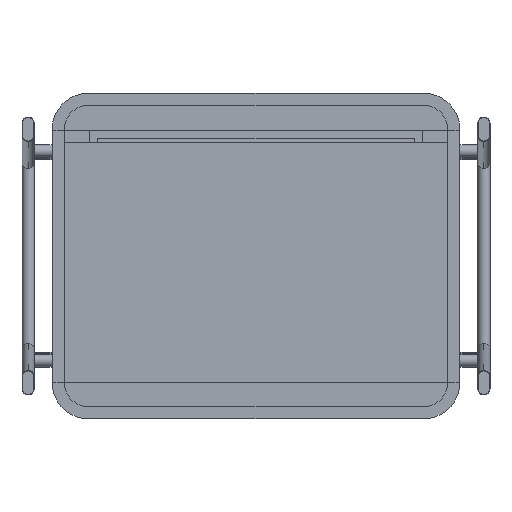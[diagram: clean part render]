
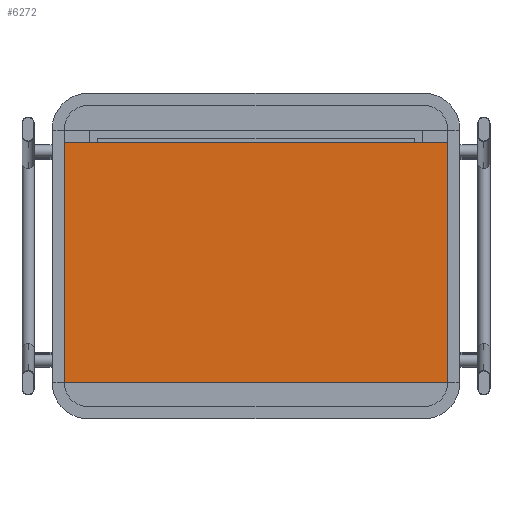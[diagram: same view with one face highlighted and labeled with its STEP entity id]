
A CAD part, front view. The second image highlights one B-rep face of the part: STEP entity #6272.
In plain terms, the highlighted planar face has unit normal (0, -1, 0).
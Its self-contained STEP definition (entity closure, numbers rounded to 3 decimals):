
#583 = EDGE_CURVE ( 'NONE', #24552, #14318, #2977, .T. ) ;
#1186 = LINE ( 'NONE', #22503, #7869 ) ;
#1730 = CARTESIAN_POINT ( 'NONE',  ( 236., 0., 139.5 ) ) ;
#2977 = LINE ( 'NONE', #16124, #13054 ) ;
#3325 = EDGE_CURVE ( 'NONE', #13603, #14318, #23348, .T. ) ;
#4037 = VECTOR ( 'NONE', #10565, 1000. ) ;
#4414 = CARTESIAN_POINT ( 'NONE',  ( -236., 0., -155.5 ) ) ;
#4488 = PLANE ( 'NONE',  #16317 ) ;
#5531 = ORIENTED_EDGE ( 'NONE', *, *, #3325, .F. ) ;
#5613 = CARTESIAN_POINT ( 'NONE',  ( -236., 0., 139.5 ) ) ;
#6272 = ADVANCED_FACE ( 'NONE', ( #8291 ), #4488, .F. ) ;
#6773 = EDGE_CURVE ( 'NONE', #7067, #13603, #1186, .T. ) ;
#7067 = VERTEX_POINT ( 'NONE', #14362 ) ;
#7869 = VECTOR ( 'NONE', #11035, 1000. ) ;
#8291 = FACE_OUTER_BOUND ( 'NONE', #22533, .T. ) ;
#10565 = DIRECTION ( 'NONE',  ( 0., 0., -1. ) ) ;
#10709 = DIRECTION ( 'NONE',  ( -1., 0., 0. ) ) ;
#11035 = DIRECTION ( 'NONE',  ( -1., 0., 0. ) ) ;
#12199 = DIRECTION ( 'NONE',  ( 0., 1., 0. ) ) ;
#12330 = CARTESIAN_POINT ( 'NONE',  ( -206., 0., 155.5 ) ) ;
#12455 = LINE ( 'NONE', #20141, #4037 ) ;
#13054 = VECTOR ( 'NONE', #10709, 1000. ) ;
#13603 = VERTEX_POINT ( 'NONE', #4414 ) ;
#13639 = DIRECTION ( 'NONE',  ( 0., 0., 1. ) ) ;
#14318 = VERTEX_POINT ( 'NONE', #5613 ) ;
#14362 = CARTESIAN_POINT ( 'NONE',  ( 236., 0., -155.5 ) ) ;
#16112 = DIRECTION ( 'NONE',  ( 0., 0., 1. ) ) ;
#16124 = CARTESIAN_POINT ( 'NONE',  ( -206., 0., 139.5 ) ) ;
#16317 = AXIS2_PLACEMENT_3D ( 'NONE', #12330, #12199, #16112 ) ;
#16331 = ORIENTED_EDGE ( 'NONE', *, *, #6773, .F. ) ;
#16647 = EDGE_CURVE ( 'NONE', #24552, #7067, #12455, .T. ) ;
#17237 = VECTOR ( 'NONE', #13639, 1000. ) ;
#17803 = ORIENTED_EDGE ( 'NONE', *, *, #583, .T. ) ;
#18345 = ORIENTED_EDGE ( 'NONE', *, *, #16647, .F. ) ;
#20141 = CARTESIAN_POINT ( 'NONE',  ( 236., 0., 155.5 ) ) ;
#22503 = CARTESIAN_POINT ( 'NONE',  ( -206., 0., -155.5 ) ) ;
#22533 = EDGE_LOOP ( 'NONE', ( #16331, #18345, #17803, #5531 ) ) ;
#23219 = CARTESIAN_POINT ( 'NONE',  ( -236., 0., 155.5 ) ) ;
#23348 = LINE ( 'NONE', #23219, #17237 ) ;
#24552 = VERTEX_POINT ( 'NONE', #1730 ) ;
